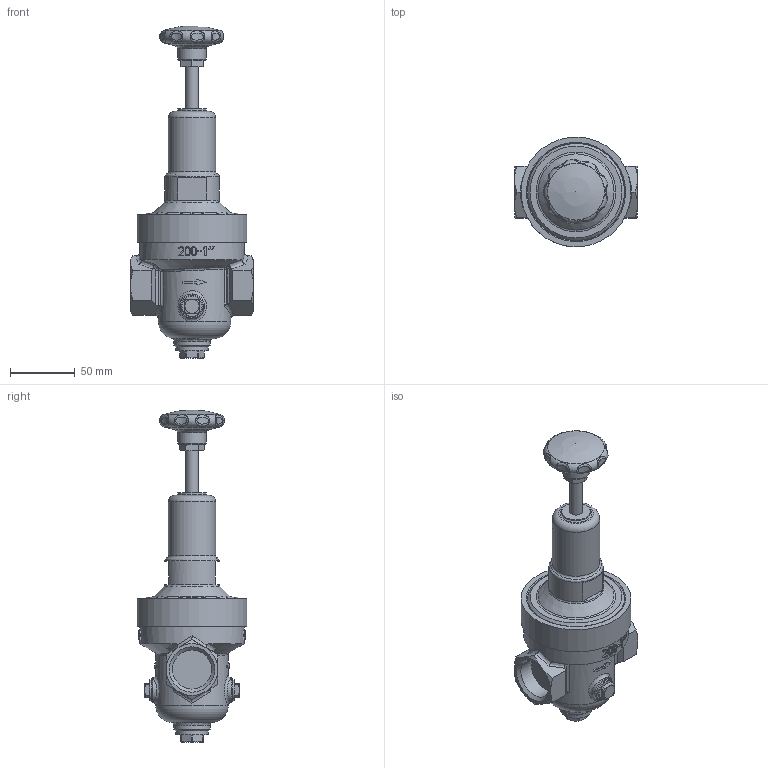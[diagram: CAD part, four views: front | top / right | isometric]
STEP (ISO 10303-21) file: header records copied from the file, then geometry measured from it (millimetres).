
FILE_DESCRIPTION(/* description */ (''),/* implementation_level */ '2;1');
FILE_NAME(/* name */ 'U:/AirCom-Produktdokumentation/Druckregler/RWI/Zeichnungen/CAD-Aircom/3D/B-RWI-08H.step',/* time_stamp */ '2022-07-01T12:20:22+02:00',/* author */ (''),/* organization */ (''),/* preprocessor_version */ 'ST-DEVELOPER v19',/* originating_system */ 'Autodesk Translation Framework v11.7.0.108',/* authorisation */ '');
FILE_SCHEMA (('AUTOMOTIVE_DESIGN { 1 0 10303 214 3 1 1 }'));
Length unit declared in the file: millimetre
Products named in the file (1): 002204_002214_step
Bounding box: 95 x 84.87 x 256.5 mm (x, y, z)
Volume: 516761.8 mm3; surface area: 59977.9 mm2
Topology: 1 solids, 3 shells, 381 faces, 946 edges, 611 vertices
Faces by surface type: plane 163, cylinder 103, cone 61, bspline 43, torus 10, sphere 1
Full cylindrical faces by diameter (mm): 10 x2, 10.4 x1, 10.7 x1, 12 x1, 12.3 x1, 16.5 x2, 22 x1, 22.3 x1, 25 x1, 28 x1, 30.29 x2, 36.5 x1, 42 x1, 43.8 x1, 44 x1, 56 x1, 75 x1, 81 x1, 85 x1
Entity records: 17153 total; most frequent: CARTESIAN_POINT 8109, ORIENTED_EDGE 1890, DIRECTION 1685, EDGE_CURVE 945, AXIS2_PLACEMENT_3D 666, VERTEX_POINT 611, EDGE_LOOP 436, FACE_OUTER_BOUND 381
